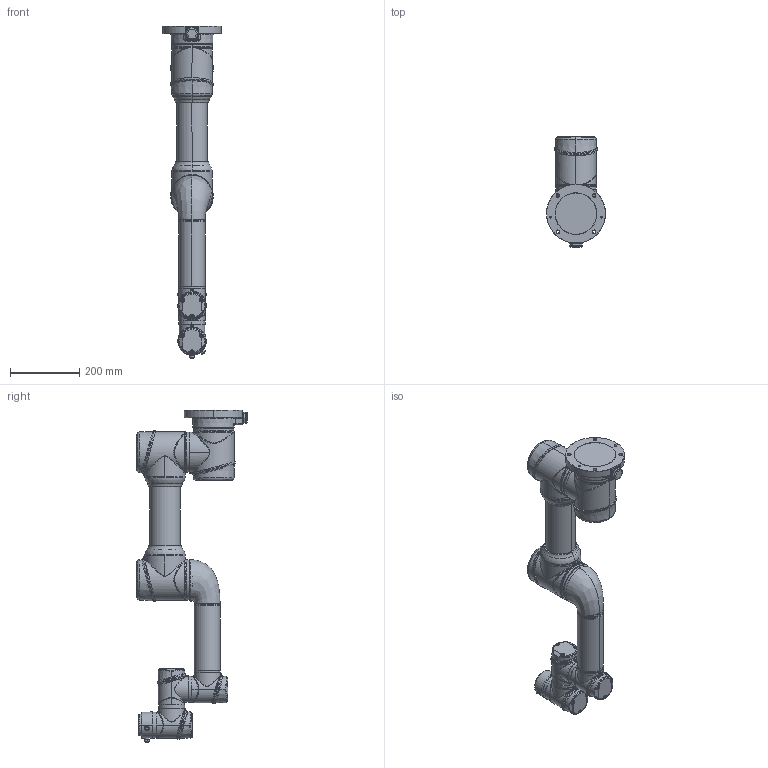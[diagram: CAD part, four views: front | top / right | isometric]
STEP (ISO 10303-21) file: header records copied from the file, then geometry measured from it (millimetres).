
FILE_DESCRIPTION (( 'STEP AP214' ), '1' );
FILE_NAME ('i7H-Íâ·¢Ä£ÐÍ.STEP', '2024-11-08T03:14:07', ( '' ), ( '' ), 'SwSTEP 2.0', 'SolidWorks 2022', '' );
FILE_SCHEMA (( 'AUTOMOTIVE_DESIGN' ));
Length unit declared in the file: millimetre
Products named in the file (8): i7H-外发模型; i7-大臂; i7-ID1; i7-底座; i7-ID5; i7-小臂; i5H-末端; i7-ID6
Assembly tree (7 placements, depth 2):
  i7H-外发模型
    i7-底座
    i7-ID1
    i7-大臂
    i7-小臂
    i7-ID5
    i7-ID6
    i5H-末端
Bounding box: 170.35 x 319.65 x 957.5 mm (x, y, z)
Volume: 11312330.7 mm3; surface area: 765174.3 mm2
Topology: 11 solids, 43 shells, 3454 faces, 8242 edges, 4992 vertices
Faces by surface type: plane 1185, bspline 829, cylinder 819, cone 308, torus 303, sphere 10
Entity records: 228073 total; most frequent: CARTESIAN_POINT 118380, ORIENTED_EDGE 16354, DIRECTION 14115, EDGE_CURVE 8179, AXIS2_PLACEMENT_3D 5537, VERTEX_POINT 4991, EDGE_LOOP 3686, FACE_OUTER_BOUND 3454
